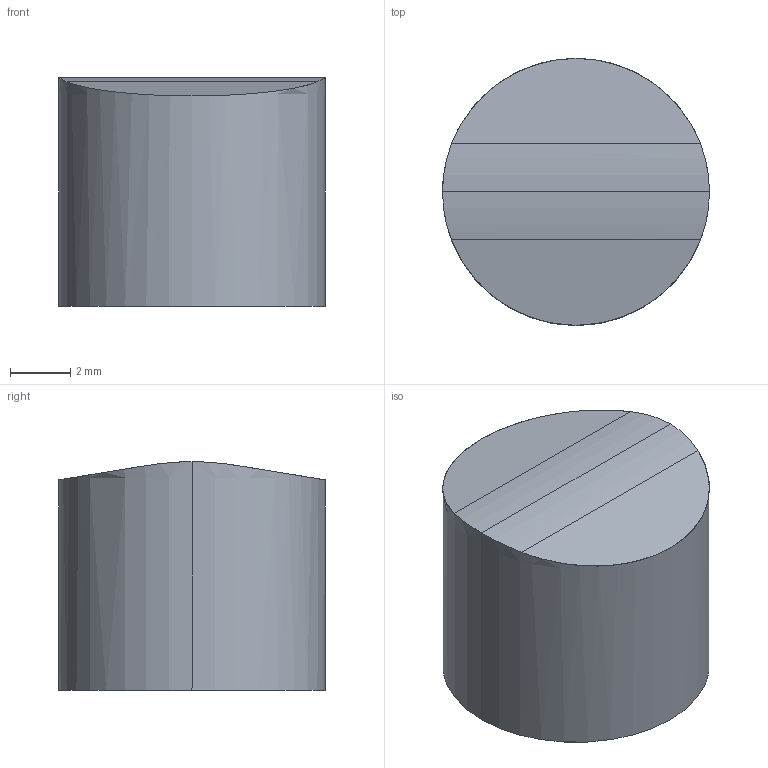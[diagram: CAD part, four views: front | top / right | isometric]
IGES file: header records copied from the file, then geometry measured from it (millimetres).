
Start section: 3D InterOp IGES (Version 19 0 3), Spatial Corp. Copyright (c) 1999-2007.
Global section: file name: export0.igs; native system: Spatial Corp.; preprocessor: 3D InterOp ACIS/IGES; author: Noname; organization: Noname; date: 20110718.125244; units: centimetre
Bounding box: 8.89 x 8.89 x 7.62 mm (x, y, z)
Surface area: 327.7 mm2 (no closed solid volume)
Topology: 0 solids, 0 shells, 7 faces, 30 edges, 30 vertices
Faces by surface type: extrusion 3, revolution 2, bspline 2
